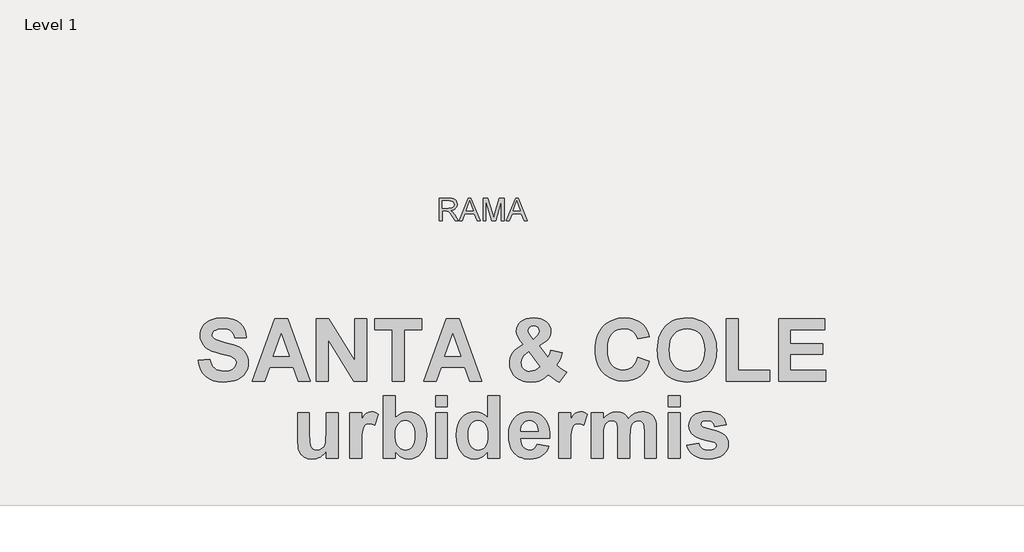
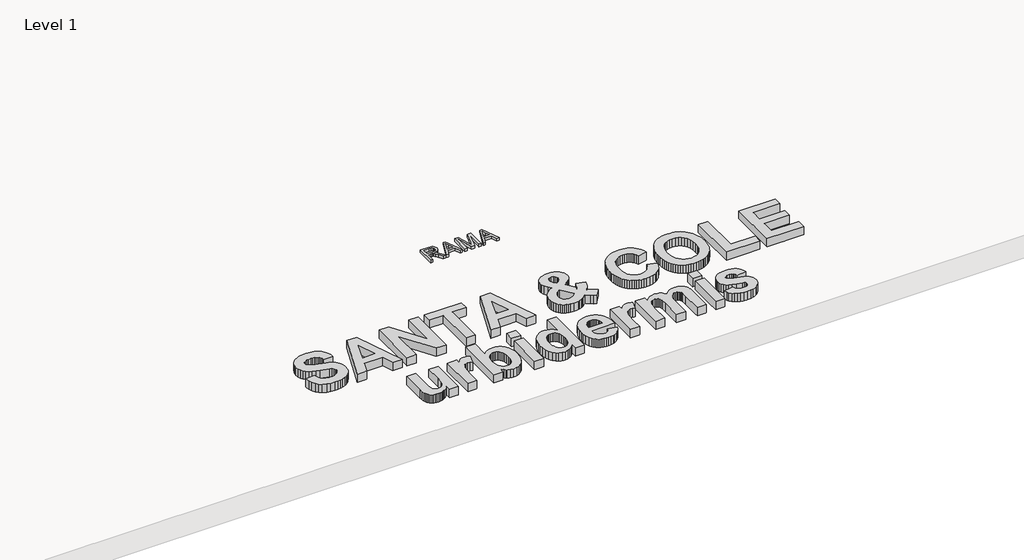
# One storey, part 2 of 2: 2 proxies.
"""IFC4 building model written with IfcOpenShell, lengths in millimetres."""

import ifcopenshell
import ifcopenshell.guid

model = None  # the IFC model being written
_history = None  # IfcOwnerHistory: only IFC2X3 demands one
_inside = {}  # id of a spatial element -> (the spatial element, [elements in it])
_under = {}  # id of a project, library or spatial element -> (it, [spatial elements below it])
_declared = {}  # id of a project -> (the project, [libraries it declares])
_typed = {}  # id of a type object -> (the type object, [elements of that type])
_made_of = {}  # id of a material, layer set ... -> (it, [elements and type objects made of it])


def new_model(schema):
    """Start an empty IFC model of exactly this schema.

    Asked for "IFC4X3", IfcOpenShell would pick the latest addendum, in which some entities
    have other attributes; the version numbers below select the first issue.
    IFC2X3 requires an IfcOwnerHistory on every rooted entity: one is made here for all.
    """
    global model, _history
    if schema == "IFC4X3":
        model = ifcopenshell.file(schema_version=(4, 3, 0, 0))
    else:
        model = ifcopenshell.file(schema=schema)
    _inside.clear()
    _under.clear()
    _declared.clear()
    _typed.clear()
    _made_of.clear()
    _history = None
    if model.schema == "IFC2X3":
        org = make("IfcOrganization", Name="unknown")
        user = make(
            "IfcPersonAndOrganization",
            ThePerson=make("IfcPerson", FamilyName="unknown"),
            TheOrganization=org,
        )
        app = make(
            "IfcApplication",
            ApplicationDeveloper=org,
            Version="unknown",
            ApplicationFullName="unknown",
            ApplicationIdentifier="unknown",
        )
        _history = make(
            "IfcOwnerHistory",
            OwningUser=user,
            OwningApplication=app,
            ChangeAction="ADDED",
            CreationDate=0,
        )
    return model


def make(cls, **values):
    """One entity of the class cls with the attributes given. An attribute that is None is left unset."""
    return model.create_entity(
        cls, **{name: value for name, value in values.items() if value is not None}
    )


def rooted(cls, **values):
    """An entity with a GlobalId (a new one), such as an element, a storey or a relation."""
    return make(cls, GlobalId=ifcopenshell.guid.new(), OwnerHistory=_history, **values)


def si_unit(unit_type, name, prefix=None):
    """IfcSIUnit, for example si_unit("LENGTHUNIT", "METRE", prefix="MILLI")."""
    return make("IfcSIUnit", UnitType=unit_type, Prefix=prefix, Name=name)


def assignment(units):
    """IfcUnitAssignment: the units of a project."""
    return None if units is None else make("IfcUnitAssignment", Units=units)


def point(xyz):
    """IfcCartesianPoint."""
    return None if xyz is None else make("IfcCartesianPoint", Coordinates=xyz)


def direction(xyz):
    """IfcDirection."""
    return None if xyz is None else make("IfcDirection", DirectionRatios=xyz)


def frame(location, z_axis=None, x_axis=None):
    """IfcAxis2Placement3D, a coordinate frame: its origin and axes. An axis left out is left unset."""
    return make(
        "IfcAxis2Placement3D",
        Location=point(location),
        Axis=direction(z_axis),
        RefDirection=direction(x_axis),
    )


def origin():
    """The frame at (0, 0, 0) with its axes left unset."""
    return frame((0.0, 0.0, 0.0))


def origin_with_axes():
    """The frame at (0, 0, 0) with the z axis (0, 0, 1) and the x axis (1, 0, 0) written out."""
    return frame((0.0, 0.0, 0.0), z_axis=(0.0, 0.0, 1.0), x_axis=(1.0, 0.0, 0.0))


def place(relative_to, where):
    """IfcLocalPlacement: puts the frame where relative to a parent placement (None: the world)."""
    return make(
        "IfcLocalPlacement", PlacementRelTo=relative_to, RelativePlacement=where
    )


def context(
    kind, dimensions, precision=None, world=None, true_north=None, identifier=None
):
    """IfcGeometricRepresentationContext, for example the 3D "Model" context."""
    return make(
        "IfcGeometricRepresentationContext",
        ContextIdentifier=identifier,
        ContextType=kind,
        CoordinateSpaceDimension=dimensions,
        Precision=precision,
        WorldCoordinateSystem=world,
        TrueNorth=true_north,
    )


def project(units=None, contexts=None):
    """IfcProject with its units and contexts."""
    return rooted(
        "IfcProject",
        Name="project",
        RepresentationContexts=contexts,
        UnitsInContext=assignment(units),
    )


def spatial(cls, under=None, at=None, **own):
    """A site, building, storey or space (cls), placed at a placement, below another one or the project."""
    s = rooted(cls, ObjectPlacement=at, **own)
    if under is not None:
        _under.setdefault(under.id(), (under, []))[1].append(s)
    return s


def polyline(points):
    """IfcPolyline through the points."""
    return make("IfcPolyline", Points=[point(p) for p in points])


def outline(outer, holes=None, kind="AREA"):
    """IfcArbitraryClosedProfileDef: a profile drawn as a closed curve; with holes, ...WithVoids."""
    if holes is None:
        return make("IfcArbitraryClosedProfileDef", ProfileType=kind, OuterCurve=outer)
    return make(
        "IfcArbitraryProfileDefWithVoids",
        ProfileType=kind,
        OuterCurve=outer,
        InnerCurves=holes,
    )


def extrude(swept, where, along, depth):
    """IfcExtrudedAreaSolid: the profile swept, set in the frame where, extruded along a direction by depth."""
    return make(
        "IfcExtrudedAreaSolid",
        SweptArea=swept,
        Position=where,
        ExtrudedDirection=direction(along),
        Depth=depth,
    )


def shape(context_of_items, identifier, shape_type, items):
    """IfcShapeRepresentation: the items that make up one representation, for example the "Body"."""
    return make(
        "IfcShapeRepresentation",
        ContextOfItems=context_of_items,
        RepresentationIdentifier=identifier,
        RepresentationType=shape_type,
        Items=items,
    )


def made_of(thing, what):
    """Note that an element or type object is made of a material, layer set ...; save() writes the relation."""
    if what is not None:
        _made_of.setdefault(what.id(), (what, []))[1].append(thing)
    return thing


def element(
    cls,
    number,
    at=None,
    inside=None,
    cuts=None,
    type_object=None,
    material=None,
    context=None,
    identifier="Body",
    shape_type=None,
    held_by="IfcProductDefinitionShape",
    body=None,
    shapes=None,
    **own,
):
    """One element of the class cls, such as IfcWall. Its Tag is "e" and its number.

    at: its placement. inside: the storey or other place that contains it. cuts: it is an
    opening in that element (IfcRelVoidsElement). A single representation is given by context,
    identifier, shape_type and body (its items); several are given by shapes. held_by: the class
    of the entity that holds the representations. save() writes the other relations.
    """
    e = rooted(cls, Tag="e%d" % number, ObjectPlacement=at, **own)
    if body is not None:
        shapes = [shape(context, identifier, shape_type, body)]
    if shapes is not None:
        e.Representation = make(held_by, Representations=shapes)
    if inside is not None:
        _inside.setdefault(inside.id(), (inside, []))[1].append(e)
    if cuts is not None:
        rooted(
            "IfcRelVoidsElement", RelatingBuildingElement=cuts, RelatedOpeningElement=e
        )
    if type_object is not None:
        _typed.setdefault(type_object.id(), (type_object, []))[1].append(e)
    return made_of(e, material)


def aggregate(whole, parts):
    """IfcRelAggregates: a whole, such as a stair, and the parts it consists of."""
    return rooted("IfcRelAggregates", RelatingObject=whole, RelatedObjects=parts)


def save(model, path):
    """Write the relations noted so far, then the file.

    IfcRelAggregates (storeys below a building ...), IfcRelContainedInSpatialStructure (elements
    in a storey), IfcRelDefinesByType, IfcRelAssociatesMaterial and IfcRelDeclares: one each for
    every whole, place, type object, material and project.
    """
    for whole, parts in _under.values():
        aggregate(whole, parts)
    for where, things in _inside.values():
        rooted(
            "IfcRelContainedInSpatialStructure",
            RelatedElements=things,
            RelatingStructure=where,
        )
    for kind, things in _typed.values():
        rooted("IfcRelDefinesByType", RelatedObjects=things, RelatingType=kind)
    for what, things in _made_of.values():
        rooted("IfcRelAssociatesMaterial", RelatedObjects=things, RelatingMaterial=what)
    for by, libraries in _declared.values():
        rooted("IfcRelDeclares", RelatingContext=by, RelatedDefinitions=libraries)
    model.write(path)


model = new_model("IFC4")

# Units and contexts
model_context = context("Model", 3, world=origin())
ifc_project = project(units=[si_unit("LENGTHUNIT", "METRE", prefix="MILLI")], contexts=[model_context])

# Site, building, storey
site = spatial("IfcSite", under=ifc_project)
building = spatial("IfcBuilding", under=site)
storey = spatial("IfcBuildingStorey", under=building, Name="Level 1", Elevation=0.0)

# Proxies
placement = place(None, origin())
element("IfcBuildingElementProxy", 1, Name="300mm Arial", ObjectType="300mm Arial", at=placement, inside=storey, context=model_context, shape_type="SweptSolid", body=[
    extrude(outline(polyline([(-26358.8017715, -8934.4769997), (-26358.8017715, -8633.1080693), (-26228.9394272, -8633.1080693), (-26194.0366229, -8635.1406173), (-26168.6435682, -8641.2382614), (-26150.0839215, -8652.4954504), (-26135.6813414, -8670.0066334), (-26126.4383063, -8691.7208682), (-26123.3572946, -8715.5872126), (-26128.4616572, -8745.2752896), (-26143.7747453, -8769.8865951), (-26155.3745244, -8779.915978), (-26169.7564112, -8787.931207), (-26206.8665075, -8797.9192031), (-26185.4557753, -8814.0324345), (-26154.9215697, -8852.8071968), (-26104.6688892, -8934.4769997), (-26148.4468466, -8934.4769997), (-26187.6630673, -8872.010637), (-26215.9899809, -8830.6607007), (-26235.8923969, -8811.1261667), (-26253.80825, -8803.9524678), (-26275.6604406, -8802.6280927), (-26321.1306552, -8802.6280927), (-26321.1306552, -8934.4769997), (-26358.8017715, -8934.4769997)]), holes=[polyline([(-26321.1306552, -8764.9569764), (-26236.8121019, -8764.9569764), (-26212.5962695, -8763.6234041), (-26193.8066966, -8759.6226874), (-26179.6616339, -8752.6881118), (-26169.3793322, -8742.5529628), (-26163.1161412, -8730.2932954), (-26161.0284109, -8716.9851642), (-26165.0107335, -8698.6094585), (-26176.9577013, -8683.8022082), (-26197.5131077, -8674.0349412), (-26227.3207464, -8670.7791856), (-26321.1306552, -8670.7791856), (-26321.1306552, -8764.9569764)])]), origin_with_axes(), (0.0, 0.0, 1.0), 50.0),
    extrude(outline(polyline([(-26092.5287834, -8934.4769997), (-25972.2313709, -8633.1080693), (-25940.152061, -8633.1080693), (-25819.8546485, -8934.4769997), (-25859.6594804, -8934.4769997), (-25894.1668116, -8840.299209), (-26018.2901967, -8840.299209), (-26052.7239515, -8934.4769997), (-26092.5287834, -8934.4769997)]), holes=[polyline([(-26004.4578337, -8802.6280927), (-25907.9255982, -8802.6280927), (-25935.0752894, -8728.5366588), (-25956.1917159, -8670.7791856), (-25974.9536977, -8722.0619357), (-26004.4578337, -8802.6280927)])]), origin_with_axes(), (0.0, 0.0, 1.0), 50.0),
    extrude(outline(polyline([(-25779.6083583, -8934.4769997), (-25779.6083583, -8633.1080693), (-25714.7875507, -8633.1080693), (-25653.1305283, -8845.5231333), (-25640.6961169, -8889.8897019), (-25627.2316359, -8841.8443133), (-25566.6046831, -8633.1080693), (-25501.7838755, -8633.1080693), (-25501.7838755, -8934.4769997), (-25539.4549918, -8934.4769997), (-25539.4549918, -8670.7791856), (-25615.1651064, -8934.4769997), (-25666.2271273, -8934.4769997), (-25741.937242, -8670.7791856), (-25741.937242, -8934.4769997), (-25779.6083583, -8934.4769997)])), origin_with_axes(), (0.0, 0.0, 1.0), 50.0),
    extrude(outline(polyline([(-25470.9553643, -8934.4769997), (-25350.6579519, -8633.1080693), (-25318.5786419, -8633.1080693), (-25198.2812295, -8934.4769997), (-25238.0860614, -8934.4769997), (-25272.5933925, -8840.299209), (-25396.7167777, -8840.299209), (-25431.1505324, -8934.4769997), (-25470.9553643, -8934.4769997)]), holes=[polyline([(-25382.8844147, -8802.6280927), (-25286.3521791, -8802.6280927), (-25313.5018704, -8728.5366588), (-25334.6182969, -8670.7791856), (-25353.3802786, -8722.0619357), (-25382.8844147, -8802.6280927)])]), origin_with_axes(), (0.0, 0.0, 1.0), 50.0),
])
element("IfcBuildingElementProxy", 2, Name="800mm Arial", ObjectType="800mm Arial", at=placement, inside=storey, context=model_context, shape_type="SweptSolid", body=[
    extrude(outline(polyline([(-29541.0157949, -10774.4993973), (-29384.9161067, -10761.4910899), (-29375.4647584, -10799.0678215), (-29362.1515688, -10831.3091145), (-29344.976538, -10858.214969), (-29323.939666, -10879.7853849), (-29298.9774356, -10896.3252444), (-29270.0263297, -10908.1394298), (-29237.0863483, -10915.227941), (-29200.1574914, -10917.5907781), (-29161.3485276, -10915.5010647), (-29127.6463407, -10909.2319244), (-29099.0509306, -10898.7833572), (-29075.5622976, -10884.1553631), (-29057.2439585, -10866.7326156), (-29044.1594306, -10847.8997878), (-29036.3087139, -10827.6568798), (-29033.6918083, -10806.0038916), (-29038.0363797, -10779.4537331), (-29051.0700939, -10757.1211117), (-29074.97794, -10738.2438219), (-29111.9449072, -10722.0596583), (-29247.3126055, -10687.3030871), (-29310.1437463, -10670.3440145), (-29362.8629607, -10651.3778008), (-29405.4702486, -10630.4044458), (-29437.9656101, -10607.4239498), (-29471.667797, -10571.8416559), (-29495.7407877, -10532.5753688), (-29510.1845821, -10489.6250884), (-29514.9991802, -10442.9908147), (-29512.7887842, -10412.2993395), (-29506.1575963, -10382.6241384), (-29495.1056164, -10353.9652112), (-29479.6328446, -10326.3225581), (-29459.9933493, -10300.801377), (-29436.4411991, -10278.5068659), (-29408.9763939, -10259.4390247), (-29377.5989338, -10243.5978536), (-29342.5501838, -10231.1484969), (-29304.0715091, -10222.2560993), (-29262.1629095, -10216.9206608), (-29216.8243852, -10215.1421813), (-29144.6498752, -10219.5756766), (-29081.9902307, -10232.8761628), (-29028.8454516, -10255.0436396), (-29005.8411366, -10269.4524996), (-28985.2155379, -10286.0781073), (-28950.960752, -10324.5059683), (-28925.9413562, -10368.8536255), (-28910.1573504, -10419.1210788), (-28903.6087348, -10475.3083282), (-29059.708423, -10475.3083282), (-29066.7651756, -10446.3000569), (-29076.9596743, -10421.6744673), (-29090.291919, -10401.4315593), (-29106.7619097, -10385.571333), (-29127.0556314, -10373.6110582), (-29151.859069, -10365.0680048), (-29181.1722225, -10359.9421728), (-29214.995092, -10358.2335621), (-29250.2598002, -10360.0501519), (-29281.4594123, -10365.4999213), (-29308.5939284, -10374.5828703), (-29331.6633485, -10387.2989988), (-29343.5791613, -10397.4363321), (-29352.0904561, -10409.1488901), (-29357.197233, -10422.4366728), (-29358.899492, -10437.2996802), (-29357.3496741, -10451.1083033), (-29352.7002205, -10463.8752456), (-29334.1024061, -10486.2840876), (-29312.7288933, -10499.2987466), (-29280.1128493, -10512.5293639), (-29181.1531674, -10539.6384732), (-29075.5368907, -10567.840077), (-29034.6001032, -10582.4363125), (-29001.5775495, -10597.362837), (-28974.0873375, -10613.8455312), (-28949.7475749, -10633.1102754), (-28928.5582618, -10655.1570697), (-28910.5193981, -10679.9859142), (-28896.1137139, -10707.7428981), (-28885.8239396, -10738.574111), (-28879.650075, -10772.4795527), (-28877.5921201, -10809.4592233), (-28880.024826, -10843.8600986), (-28887.3229437, -10877.1430725), (-28899.4864733, -10909.3081449), (-28916.5154147, -10940.355316), (-28937.9969066, -10968.8872089), (-28963.5180878, -10993.5064468), (-28993.0789581, -11014.2130298), (-29026.6795176, -11031.0069578), (-29064.4912625, -11043.9898583), (-29106.6856892, -11053.2633587), (-29153.2627975, -11058.8274589), (-29204.2225874, -11060.682159), (-29277.1656546, -11056.1152776), (-29341.1146968, -11042.4146336), (-29396.069714, -11019.5802269), (-29442.0307062, -10987.6120575), (-29479.315259, -10946.8912282), (-29508.240958, -10897.7988417), (-29528.8078033, -10840.3348981), (-29541.0157949, -10774.4993973)])), origin_with_axes(), (0.0, 0.0, 1.0), 150.0),
    extrude(outline(polyline([(-28058.0687571, -11047.6738516), (-28222.0953825, -11047.6738516), (-28286.3239001, -10865.5575487), (-28595.880964, -10865.5575487), (-28659.2964624, -11047.6738516), (-28825.5588907, -11047.6738516), (-28526.3678216, -10228.1504886), (-28360.1053933, -10228.1504886), (-28058.0687571, -11047.6738516)]), holes=[polyline([(-28336.3245815, -10722.4661679), (-28441.8138239, -10423.2750988), (-28545.8802827, -10722.4661679), (-28336.3245815, -10722.4661679)])]), origin_with_axes(), (0.0, 0.0, 1.0), 150.0),
    extrude(outline(polyline([(-27980.018913, -11047.6738516), (-27980.018913, -10228.1504886), (-27816.3987971, -10228.1504886), (-27472.6949263, -10779.7840221), (-27472.6949263, -10228.1504886), (-27316.5952381, -10228.1504886), (-27316.5952381, -11047.6738516), (-27485.2967241, -11047.6738516), (-27823.9192248, -10504.1705102), (-27823.9192248, -11047.6738516), (-27980.018913, -11047.6738516)])), origin_with_axes(), (0.0, 0.0, 1.0), 150.0),
    extrude(outline(polyline([(-26978.3792471, -11047.6738516), (-26978.3792471, -10371.2418694), (-27212.5287793, -10371.2418694), (-27212.5287793, -10228.1504886), (-26588.1300266, -10228.1504886), (-26588.1300266, -10371.2418694), (-26822.2795589, -10371.2418694), (-26822.2795589, -11047.6738516), (-26978.3792471, -11047.6738516)])), origin_with_axes(), (0.0, 0.0, 1.0), 150.0),
    extrude(outline(polyline([(-25794.6232783, -11047.6738516), (-25958.6499037, -11047.6738516), (-26022.8784213, -10865.5575487), (-26332.4354852, -10865.5575487), (-26395.8509836, -11047.6738516), (-26562.1134119, -11047.6738516), (-26262.9223428, -10228.1504886), (-26096.6599145, -10228.1504886), (-25794.6232783, -11047.6738516)]), holes=[polyline([(-26072.8791027, -10722.4661679), (-26178.3683451, -10423.2750988), (-26282.4348039, -10722.4661679), (-26072.8791027, -10722.4661679)])]), origin_with_axes(), (0.0, 0.0, 1.0), 150.0),
    extrude(outline(polyline([(-24675.9088462, -10934.2576719), (-24774.6906801, -11060.682159), (-24811.4035788, -11041.5635041), (-24847.354272, -11019.1673656), (-24916.9690418, -10964.5426375), (-24966.817282, -11007.4294008), (-24992.8466002, -11023.9946671), (-25019.612717, -11037.3078567), (-25048.030279, -11047.5341139), (-25079.0139329, -11054.8385834), (-25148.6795164, -11060.682159), (-25218.4467273, -11055.2196862), (-25249.8622977, -11048.3915951), (-25278.9658447, -11038.8322677), (-25305.7573684, -11026.5417039), (-25330.2368686, -11011.5199037), (-25352.4043455, -10993.766867), (-25372.259799, -10973.282594), (-25397.6920561, -10938.1703269), (-25415.8579541, -10900.5173747), (-25426.7574929, -10860.3237376), (-25430.3906725, -10817.5894154), (-25427.551457, -10778.5581416), (-25419.0338104, -10741.5467124), (-25404.8377328, -10706.5551279), (-25384.9632242, -10673.5833879), (-25359.4356913, -10642.6696028), (-25328.2805412, -10613.8518829), (-25291.4977736, -10587.1302281), (-25249.0873888, -10562.5046384), (-25288.4425999, -10515.2987106), (-25316.6696106, -10470.430213), (-25333.6667934, -10427.8991456), (-25339.332521, -10387.7055084), (-25335.6104175, -10352.9997509), (-25324.4441068, -10321.0379333), (-25305.8335889, -10291.8200554), (-25279.7788639, -10265.3461174), (-25246.8388825, -10243.3818954), (-25207.5725954, -10227.6931653), (-25161.9800026, -10218.2799273), (-25110.061104, -10215.1421813), (-25059.8127058, -10218.4006098), (-25015.369773, -10228.1758955), (-24976.7323054, -10244.4680382), (-24943.9003031, -10267.2770381), (-24917.7121921, -10294.7863052), (-24899.0063986, -10325.1792499), (-24887.7829225, -10358.455872), (-24884.0417638, -10394.6161717), (-24885.9663327, -10418.2890045), (-24891.7400394, -10441.3393694), (-24901.362884, -10463.7672665), (-24914.8348664, -10485.5726958), (-24934.1631277, -10507.7719312), (-24961.3548092, -10531.3812468), (-25039.3284328, -10582.8301187), (-24923.8797051, -10734.8647108), (-24902.5379508, -10694.0613093), (-24884.4482734, -10642.3837758), (-24736.8852869, -10674.9045441), (-24757.566463, -10739.2855028), (-24775.3004445, -10783.6458634), (-24792.1705931, -10815.2011714), (-24810.2602705, -10841.1669724), (-24739.6292267, -10895.2327499), (-24675.9088462, -10934.2576719)]), holes=[polyline([(-25173.8831119, -10663.3190204), (-25217.9385903, -10692.8671873), (-25235.2025451, -10709.6801705), (-25249.2906436, -10727.8524201), (-25268.0408991, -10765.9881024), (-25274.2909843, -10804.9876176), (-25272.3918222, -10828.7366709), (-25266.694336, -10850.1864043), (-25257.1985257, -10869.3368177), (-25243.9043913, -10886.1879112), (-25227.4216972, -10899.9266655), (-25208.3602078, -10909.7400614), (-25186.719923, -10915.6280989), (-25162.500843, -10917.5907781), (-25129.573565, -10914.0084122), (-25097.8658159, -10903.2613146), (-25065.3450475, -10884.2823974), (-25029.9787119, -10856.004573), (-25173.8831119, -10663.3190204)]), polyline([(-25118.1912961, -10493.8045153), (-25081.1989221, -10461.8935113), (-25063.2362789, -10444.0324955), (-25050.4058195, -10426.2222935), (-25042.7075439, -10408.4629051), (-25040.141452, -10390.7543305), (-25045.0957878, -10363.2641185), (-25059.9587952, -10340.1438847), (-25083.2060632, -10324.4424512), (-25113.3131808, -10319.20864), (-25142.5056518, -10323.8326868), (-25164.6350184, -10337.7048271), (-25178.5833792, -10357.6237977), (-25183.2328328, -10380.3883356), (-25181.2765054, -10395.4673012), (-25175.4075229, -10412.045271), (-25151.9315933, -10449.6982231), (-25118.1912961, -10493.8045153)])]), origin_with_axes(), (0.0, 0.0, 1.0), 150.0),
    extrude(outline(polyline([(-23739.310717, -10735.4744752), (-23583.2110289, -10787.5077046), (-23604.7687413, -10849.2272957), (-23632.4495047, -10902.4737022), (-23666.253319, -10947.2469241), (-23706.1801843, -10983.5469615), (-23752.0649559, -11011.6024759), (-23803.7424894, -11031.6421291), (-23861.2127847, -11043.665921), (-23924.475842, -11047.6738516), (-23964.4694002, -11045.9620651), (-24002.6400169, -11040.8267055), (-24038.9876921, -11032.2677728), (-24073.5124258, -11020.285267), (-24106.214218, -11004.8791882), (-24137.0930686, -10986.0495362), (-24166.1489778, -10963.7963112), (-24193.3819455, -10938.1195132), (-24218.0583488, -10909.4732895), (-24239.444565, -10878.3117876), (-24257.5405942, -10844.6350075), (-24272.3464362, -10808.4429493), (-24283.8620911, -10769.7356128), (-24292.0875588, -10728.5129982), (-24297.0228395, -10684.7751055), (-24298.6679331, -10638.5219345), (-24297.0085482, -10589.6709131), (-24292.0303934, -10543.6273487), (-24283.7334689, -10500.3912412), (-24272.1177745, -10459.9625907), (-24257.1833103, -10422.3413971), (-24238.9300763, -10387.5276605), (-24217.3580725, -10355.5213808), (-24192.4672989, -10326.3225581), (-24164.8706957, -10300.2646573), (-24135.1812032, -10277.6811432), (-24103.3988214, -10258.572016), (-24069.5235503, -10242.9372755), (-24033.5553899, -10230.7769218), (-23995.4943403, -10222.0909548), (-23955.3404013, -10216.8793746), (-23913.093573, -10215.1421813), (-23841.0397456, -10220.871426), (-23807.6805512, -10228.0329819), (-23776.0998363, -10238.0591602), (-23746.2976009, -10250.9499609), (-23718.273845, -10266.7053839), (-23692.0285687, -10285.3254293), (-23667.5617718, -10306.8100971), (-23641.1767578, -10336.8028839), (-23618.323296, -10372.7154668), (-23599.0013863, -10414.5478458), (-23583.2110289, -10462.3000209), (-23739.310717, -10488.3166356), (-23749.1495198, -10459.7275773), (-23763.2185632, -10434.3270787), (-23781.5178471, -10412.1151399), (-23804.0473716, -10393.0917607), (-23830.0195243, -10377.8412988), (-23858.6466929, -10366.9481117), (-23889.9288773, -10360.4121995), (-23923.8660776, -10358.2335621), (-23970.2526345, -10362.190679), (-24012.0532549, -10374.0620298), (-24049.2679389, -10393.8476145), (-24081.8966864, -10421.547433), (-24108.4404932, -10458.1015389), (-24127.4003553, -10504.4499855), (-24138.7762725, -10560.592773), (-24142.5682449, -10626.5299012), (-24138.8906033, -10696.3225189), (-24127.8576786, -10755.2918185), (-24109.4694707, -10803.4377998), (-24083.7259796, -10840.7604628), (-24052.0880993, -10868.6825913), (-24016.0167236, -10888.6269688), (-23975.5118525, -10900.5935953), (-23930.573486, -10904.5824708), (-23897.1190159, -10902.035434), (-23866.0654932, -10894.3943238), (-23837.4129177, -10881.6591401), (-23811.1612897, -10863.8298829), (-23787.8822631, -10840.5254495), (-23768.1474921, -10811.3647371), (-23751.9569768, -10776.3477456), (-23739.310717, -10735.4744752)])), origin_with_axes(), (0.0, 0.0, 1.0), 150.0),
    extrude(outline(polyline([(-23479.1445701, -10642.9935402), (-23476.8452501, -10583.0079666), (-23469.9472903, -10528.0529494), (-23458.4506905, -10478.1284886), (-23442.3554508, -10433.2345842), (-23409.910903, -10374.0112161), (-23367.4560562, -10321.1395607), (-23317.7348502, -10277.8716946), (-23291.1783399, -10261.0587114), (-23263.4912248, -10247.4596948), (-23224.4408959, -10233.3207826), (-23182.494186, -10223.2215596), (-23137.6510953, -10217.1620259), (-23089.9116236, -10215.1421813), (-23046.5611853, -10216.893666), (-23005.4338464, -10222.1481202), (-22966.5296069, -10230.9055439), (-22929.8484667, -10243.1659371), (-22895.390426, -10258.9292998), (-22863.1554847, -10278.195632), (-22833.1436428, -10300.9649336), (-22805.3549003, -10327.2372047), (-22780.3450321, -10356.6281667), (-22758.6698129, -10388.753541), (-22740.3292428, -10423.6133275), (-22725.3233219, -10461.2075263), (-22713.65205, -10501.5361374), (-22705.3154273, -10544.5991607), (-22700.3134536, -10590.3965963), (-22698.6461291, -10638.9284441), (-22700.3007502, -10687.1220633), (-22705.2646136, -10732.6162046), (-22713.5377192, -10775.410868), (-22725.1200671, -10815.5060536), (-22740.0116572, -10852.9017614), (-22758.2124896, -10887.5979914), (-22779.7225642, -10919.5947434), (-22804.5418811, -10948.8920177), (-22832.1337205, -10975.092832), (-22861.9613628, -10997.8002045), (-22894.0248078, -11017.014135), (-22928.3240557, -11032.7346236), (-22964.8591064, -11044.9616703), (-23003.62996, -11053.6952751), (-23044.6366164, -11058.935438), (-23087.8790756, -11060.682159), (-23131.5979132, -11058.9433776), (-23173.0174309, -11053.7270337), (-23212.1376286, -11045.0331271), (-23248.9585064, -11032.8616579), (-23283.4800642, -11017.212626), (-23315.7023021, -10998.0860316), (-23345.6252201, -10975.4818744), (-23373.248818, -10949.4001547), (-23398.0681349, -10920.2696129), (-23419.5782095, -10888.5189897), (-23437.7790419, -10854.148285), (-23452.6706321, -10817.1574989), (-23464.2529799, -10777.5466314), (-23472.5260856, -10735.3156824), (-23477.4899489, -10690.464652), (-23479.1445701, -10642.9935402)]), holes=[polyline([(-23323.0448819, -10637.3024057), (-23318.8972136, -10702.1279842), (-23306.4542086, -10758.594709), (-23285.7158671, -10806.70258), (-23256.6821889, -10846.4515973), (-23221.2586879, -10877.5749889), (-23181.3508778, -10899.8059829), (-23136.9587586, -10913.1445793), (-23088.0823304, -10917.5907781), (-23039.2567158, -10913.1763379), (-22995.0170377, -10899.9330172), (-22955.3632962, -10877.860816), (-22920.295491, -10846.9597343), (-22891.6175088, -10807.2297722), (-22871.1332357, -10758.6709295), (-22858.8426719, -10701.2832064), (-22854.7458173, -10635.0666029), (-22858.7346928, -10569.7709976), (-22870.7013193, -10513.3169763), (-22890.6456967, -10465.7045388), (-22918.5678252, -10426.9336853), (-22953.0957348, -10396.8773814), (-22992.8574555, -10375.4085929), (-23037.8529873, -10362.5273198), (-23088.0823304, -10358.2335621), (-23138.3624871, -10362.5781335), (-23183.5104601, -10375.6118477), (-23223.5262493, -10397.3347047), (-23258.4098547, -10427.7467045), (-23286.6876791, -10466.9113642), (-23306.8861251, -10514.892201), (-23319.0051927, -10571.6892148), (-23323.0448819, -10637.3024057)])]), origin_with_axes(), (0.0, 0.0, 1.0), 150.0),
    extrude(outline(polyline([(-22568.5630556, -11047.6738516), (-22568.5630556, -10228.1504886), (-22412.4633674, -10228.1504886), (-22412.4633674, -10904.5824708), (-21996.1975322, -10904.5824708), (-21996.1975322, -11047.6738516), (-22568.5630556, -11047.6738516)])), origin_with_axes(), (0.0, 0.0, 1.0), 150.0),
    extrude(outline(polyline([(-21879.1227661, -11047.6738516), (-21879.1227661, -10228.1504886), (-21267.7323206, -10228.1504886), (-21267.7323206, -10371.2418694), (-21723.0230779, -10371.2418694), (-21723.0230779, -10553.3581723), (-21293.7489353, -10553.3581723), (-21293.7489353, -10696.4495532), (-21723.0230779, -10696.4495532), (-21723.0230779, -10904.5824708), (-21254.7240133, -10904.5824708), (-21254.7240133, -11047.6738516), (-21879.1227661, -11047.6738516)])), origin_with_axes(), (0.0, 0.0, 1.0), 150.0),
    extrude(outline(polyline([(-27849.9358395, -12064.4789741), (-27849.9358395, -11976.6728995), (-27866.698009, -11998.8975418), (-27885.8865326, -12018.6196093), (-27907.5014105, -12035.8391021), (-27931.5426426, -12050.5560201), (-27957.1590994, -12062.338447), (-27983.4996515, -12070.7544661), (-28010.5642987, -12075.8040776), (-28038.3530412, -12077.4872815), (-28066.1862457, -12075.8358362), (-28092.5712598, -12070.8815004), (-28117.5080833, -12062.624274), (-28140.9967164, -12051.0641572), (-28162.1860296, -12036.5123836), (-28180.2248933, -12019.2801874), (-28195.1133075, -11999.3675685), (-28206.8512724, -11976.7745269), (-28215.74367, -11950.5483057), (-28222.0953825, -11919.736148), (-28227.1767526, -11844.3540232), (-28227.1767526, -11466.096836), (-28071.0770644, -11466.096836), (-28071.0770644, -11742.726622), (-28068.9682958, -11845.1416355), (-28062.6419901, -11898.3181732), (-28050.7007705, -11923.9282783), (-28031.7472602, -11943.6439941), (-28006.2641893, -11956.220385), (-27974.7342881, -11960.4125153), (-27937.3608113, -11954.8230082), (-27904.1032443, -11938.0544871), (-27877.8325611, -11912.9779258), (-27861.4197358, -11882.4642986), (-27856.3955312, -11859.8458501), (-27852.8068136, -11825.2226649), (-27849.9358395, -11719.9620841), (-27849.9358395, -11466.096836), (-27693.8361513, -11466.096836), (-27693.8361513, -12064.4789741), (-27849.9358395, -12064.4789741)])), origin_with_axes(), (0.0, 0.0, 1.0), 150.0),
    extrude(outline(polyline([(-27381.6367749, -12064.4789741), (-27537.7364631, -12064.4789741), (-27537.7364631, -11466.096836), (-27381.6367749, -11466.096836), (-27381.6367749, -11549.431305), (-27348.6586832, -11500.4214908), (-27319.2375506, -11471.6863431), (-27289.6639768, -11457.7379823), (-27256.2285619, -11453.0885287), (-27231.6474342, -11455.1464836), (-27207.498223, -11461.3203482), (-27183.7809282, -11471.6101225), (-27160.49555, -11486.0158067), (-27206.0246257, -11634.5950672), (-27243.6267641, -11615.5399294), (-27278.3833353, -11609.1882169), (-27308.3888255, -11613.6344157), (-27333.3637593, -11626.9730121), (-27353.4351711, -11651.8971322), (-27368.7300949, -11691.0999022), (-27374.3767674, -11720.6226623), (-27378.4101049, -11762.8488474), (-27381.6367749, -11885.4114933), (-27381.6367749, -12064.4789741)])), origin_with_axes(), (0.0, 0.0, 1.0), 150.0),
    extrude(outline(polyline([(-27095.4540132, -12064.4789741), (-27095.4540132, -11244.9556111), (-26939.354325, -11244.9556111), (-26939.354325, -11535.000214), (-26901.9300345, -11499.1638517), (-26861.2028535, -11473.56645), (-26817.172782, -11458.208009), (-26769.8398199, -11453.0885287), (-26718.6958302, -11458.0301611), (-26672.1758873, -11472.8550582), (-26630.2799912, -11497.5632201), (-26593.0081418, -11532.1546468), (-26562.4182941, -11575.994167), (-26540.5684028, -11628.4466094), (-26527.4584681, -11689.5119741), (-26523.0884898, -11759.190261), (-26527.4330612, -11831.231385), (-26540.4667754, -11894.5071457), (-26562.1896324, -11949.017543), (-26592.6016322, -11994.7625769), (-26629.2129035, -12030.9546351), (-26669.5335749, -12056.8061053), (-26713.5636465, -12072.3169874), (-26761.3031182, -12077.4872815), (-26809.7539817, -12071.2371963), (-26857.5442671, -12052.4869408), (-26880.4548943, -12038.4750628), (-26901.7267797, -12021.4397697), (-26921.3599233, -12001.3810614), (-26939.354325, -11978.2989379), (-26939.354325, -12064.4789741), (-27095.4540132, -12064.4789741)]), holes=[polyline([(-26939.354325, -11753.9056361), (-26937.5504386, -11798.6470995), (-26932.1387795, -11837.1384777), (-26923.1193477, -11869.3797707), (-26910.4921431, -11895.3709786), (-26888.6930655, -11923.8266509), (-26863.5402837, -11944.1521311), (-26835.0337977, -11956.3474193), (-26803.1736074, -11960.4125153), (-26778.4082801, -11957.5288378), (-26755.5357631, -11948.8778053), (-26734.5560565, -11934.4594177), (-26715.4691602, -11914.2736752), (-26699.5962305, -11887.9013646), (-26688.2584236, -11854.9232729), (-26681.4557394, -11815.3394001), (-26679.188178, -11769.1497463), (-26681.4684428, -11719.9938427), (-26688.3092373, -11678.2186291), (-26699.7105613, -11643.8241055), (-26715.672415, -11616.810272), (-26735.2039312, -11596.4022195), (-26757.3142427, -11581.8250391), (-26782.0033494, -11573.0787309), (-26809.2712515, -11570.1632948), (-26836.04372, -11573.0088621), (-26860.4660549, -11581.5455638), (-26882.538256, -11595.7733999), (-26902.2603236, -11615.6923706), (-26918.4889492, -11641.404103), (-26930.0808247, -11673.0102248), (-26937.0359499, -11710.5107358), (-26939.354325, -11753.9056361)])]), origin_with_axes(), (0.0, 0.0, 1.0), 150.0),
    extrude(outline(polyline([(-26406.0137237, -11388.0469919), (-26406.0137237, -11244.9556111), (-26249.9140355, -11244.9556111), (-26249.9140355, -11388.0469919), (-26406.0137237, -11388.0469919)])), origin_with_axes(), (0.0, 0.0, 1.0), 150.0),
    extrude(outline(polyline([(-26406.0137237, -12064.4789741), (-26406.0137237, -11466.096836), (-26249.9140355, -11466.096836), (-26249.9140355, -12064.4789741), (-26406.0137237, -12064.4789741)])), origin_with_axes(), (0.0, 0.0, 1.0), 150.0),
    extrude(outline(polyline([(-25560.473746, -12064.4789741), (-25716.5734342, -12064.4789741), (-25716.5734342, -11978.2989379), (-25734.8346078, -12001.7939227), (-25754.6583027, -12022.074941), (-25776.044519, -12039.1419927), (-25798.9932565, -12052.9950778), (-25846.6311008, -12071.3642305), (-25894.624641, -12077.4872815), (-25941.9512514, -12072.304284), (-25985.759013, -12056.7552916), (-26026.0479259, -12030.8403043), (-26062.8179899, -11994.5593221), (-26093.4522997, -11948.9921361), (-26115.3339495, -11895.2185375), (-26128.4629394, -11833.2385262), (-26132.8392693, -11763.0521022), (-26128.4692911, -11691.6842598), (-26115.3593563, -11629.4120697), (-26093.5094651, -11576.235532), (-26062.9196173, -11532.1546468), (-26025.647768, -11497.5632201), (-25983.7518718, -11472.8550582), (-25937.2319289, -11458.0301611), (-25886.0879393, -11453.0885287), (-25838.7549772, -11458.208009), (-25794.7249057, -11473.56645), (-25753.9977246, -11499.1638517), (-25716.5734342, -11535.000214), (-25716.5734342, -11244.9556111), (-25560.473746, -11244.9556111), (-25560.473746, -12064.4789741)]), holes=[polyline([(-25976.7395812, -11753.9056361), (-25975.1135427, -11799.7904078), (-25970.2354275, -11838.8661435), (-25962.1052354, -11871.1328434), (-25950.7229665, -11896.5905074), (-25930.0544937, -11924.5126358), (-25905.651214, -11944.4570133), (-25877.5131273, -11956.4236398), (-25845.6402336, -11960.4125153), (-25819.7252463, -11957.4208587), (-25795.8428071, -11948.4458888), (-25773.9929158, -11933.4876057), (-25754.1755726, -11912.5460094), (-25737.724637, -11885.65921), (-25725.9739688, -11852.865318), (-25718.9235678, -11814.1643333), (-25716.5734342, -11769.5562559), (-25718.853699, -11720.2225044), (-25725.6944934, -11678.3202565), (-25737.0958175, -11643.8495124), (-25753.0576712, -11616.810272), (-25772.5891873, -11596.4022195), (-25794.6994988, -11581.8250391), (-25819.3886056, -11573.0787309), (-25846.6565077, -11570.1632948), (-25873.1812594, -11573.0469723), (-25897.4702082, -11581.6980049), (-25919.5233543, -11596.1163924), (-25939.3406975, -11616.302135), (-25955.7027091, -11642.2044188), (-25967.3898602, -11673.7724303), (-25974.4021509, -11711.0061694), (-25976.7395812, -11753.9056361)])]), origin_with_axes(), (0.0, 0.0, 1.0), 150.0),
    extrude(outline(polyline([(-25066.1580667, -11882.3626712), (-24910.0583785, -11908.3792859), (-24926.9285271, -11947.270822), (-24948.0670265, -11981.2207257), (-24973.4738768, -12010.228997), (-25003.149078, -12034.295636), (-25036.9528923, -12053.1919809), (-25074.7455821, -12066.6893701), (-25116.5271474, -12074.7878036), (-25162.2975882, -12077.4872815), (-25198.873925, -12075.8961775), (-25232.9921491, -12071.1228655), (-25264.6522605, -12063.1673455), (-25293.854259, -12052.0296175), (-25320.5981448, -12037.7096815), (-25344.8839178, -12020.2075375), (-25366.7115781, -11999.5231855), (-25386.0811256, -11975.6566255), (-25411.1576868, -11932.2236149), (-25429.0695163, -11883.4297589), (-25439.8166139, -11829.2750575), (-25443.3989798, -11769.7595107), (-25438.6478988, -11699.5857902), (-25424.3946558, -11637.4406344), (-25400.6392508, -11583.3240433), (-25367.3816838, -11537.2360169), (-25326.8577575, -11500.4214908), (-25281.303275, -11474.1254007), (-25230.718236, -11458.3477467), (-25175.1026407, -11453.0885287), (-25113.3004774, -11458.4874844), (-25058.3835705, -11474.6843514), (-25033.5070882, -11486.8320017), (-25010.35192, -11501.6791299), (-24969.205526, -11539.4718197), (-24951.5826994, -11562.5063053), (-24936.4179857, -11588.4181168), (-24923.7113847, -11617.207254), (-24913.4628964, -11648.873717), (-24900.3402583, -11720.8386205), (-24897.0500711, -11804.3128271), (-25287.2992916, -11804.3128271), (-25284.3902073, -11839.2472463), (-25277.2889926, -11870.0657557), (-25265.9956477, -11896.7683553), (-25250.5101724, -11919.3550452), (-25231.8488409, -11937.3176884), (-25211.0279271, -11950.1481478), (-25188.047431, -11957.8464234), (-25162.9073526, -11960.4125153), (-25130.1325157, -11955.7884686), (-25102.9471859, -11941.9163283), (-25081.554618, -11917.7798205), (-25066.1580667, -11882.3626712)]), holes=[polyline([(-25053.1497593, -11713.2546757), (-25055.9318094, -11680.2956391), (-25062.6519213, -11651.5414363), (-25073.310095, -11626.9920672), (-25087.9063305, -11606.6475318), (-25105.3608367, -11590.6856782), (-25124.5938224, -11579.2843541), (-25145.6052876, -11572.4435596), (-25168.3952323, -11570.1632948), (-25192.6079606, -11572.5642422), (-25214.6356998, -11579.7670842), (-25234.4784499, -11591.771821), (-25252.1362108, -11608.5784525), (-25266.5164881, -11629.6026211), (-25276.7300419, -11654.0567145), (-25282.7768723, -11681.9407327), (-25284.6569792, -11713.2546757), (-25053.1497593, -11713.2546757)])]), origin_with_axes(), (0.0, 0.0, 1.0), 150.0),
    extrude(outline(polyline([(-24623.8756168, -12064.4789741), (-24779.975305, -12064.4789741), (-24779.975305, -11466.096836), (-24623.8756168, -11466.096836), (-24623.8756168, -11549.431305), (-24590.8975251, -11500.4214908), (-24561.4763925, -11471.6863431), (-24531.9028188, -11457.7379823), (-24498.4674038, -11453.0885287), (-24473.8862761, -11455.1464836), (-24449.7370649, -11461.3203482), (-24426.0197702, -11471.6101225), (-24402.7343919, -11486.0158067), (-24448.2634676, -11634.5950672), (-24485.865606, -11615.5399294), (-24520.6221772, -11609.1882169), (-24550.6276674, -11613.6344157), (-24575.6026013, -11626.9730121), (-24595.674013, -11651.8971322), (-24610.9689369, -11691.0999022), (-24616.6156093, -11720.6226623), (-24620.6489468, -11762.8488474), (-24623.8756168, -11885.4114933), (-24623.8756168, -12064.4789741)])), origin_with_axes(), (0.0, 0.0, 1.0), 150.0),
    extrude(outline(polyline([(-24350.7011625, -11466.096836), (-24194.6014743, -11466.096836), (-24194.6014743, -11546.1792282), (-24156.1736132, -11505.4520471), (-24114.2650137, -11476.3612036), (-24068.8756756, -11458.9066974), (-24020.0055991, -11453.0885287), (-23969.7254423, -11458.80507), (-23947.2721384, -11465.9507466), (-23926.6100174, -11475.9546939), (-23907.7263759, -11488.8550222), (-23890.6085105, -11504.6898416), (-23861.6701081, -11545.1629541), (-23821.7051325, -11504.6898416), (-23778.6405213, -11475.9546939), (-23732.527088, -11458.80507), (-23683.4156464, -11453.0885287), (-23652.5336199, -11454.7590291), (-23624.1160578, -11459.7705303), (-23598.1629602, -11468.1230323), (-23574.6743272, -11479.8165352), (-23553.8153031, -11494.7494114), (-23535.7510325, -11512.8200337), (-23520.4815155, -11534.028402), (-23508.006752, -11558.3745163), (-23501.0706819, -11580.4403658), (-23496.1163461, -11608.4260114), (-23492.1528774, -11682.1566909), (-23492.1528774, -12064.4789741), (-23648.2525656, -12064.4789741), (-23648.2525656, -11719.9620841), (-23652.2160342, -11646.2314046), (-23657.1703701, -11621.294581), (-23664.1064402, -11604.3101016), (-23676.1238804, -11589.3708736), (-23691.0377015, -11578.6999965), (-23708.8479035, -11572.2974703), (-23729.5544865, -11570.1632948), (-23760.7286918, -11575.2700717), (-23790.0227902, -11590.5904025), (-23814.4133665, -11615.7685911), (-23830.8770055, -11650.4489418), (-23840.2521333, -11701.313456), (-23843.3771758, -11775.0441356), (-23843.3771758, -12064.4789741), (-23999.476864, -12064.4789741), (-23999.476864, -11734.1899203), (-24001.5094121, -11661.8058038), (-24007.6070561, -11620.6721132), (-24017.9476442, -11598.4157124), (-24032.7090242, -11582.6634652), (-24052.7550291, -11573.2883374), (-24078.9494917, -11570.1632948), (-24112.334093, -11575.1176306), (-24142.1617353, -11589.9806381), (-24166.2474294, -11614.2187732), (-24182.4061861, -11647.2984923), (-24191.5526522, -11697.1213257), (-24194.6014743, -11771.5888039), (-24194.6014743, -12064.4789741), (-24350.7011625, -12064.4789741), (-24350.7011625, -11466.096836)])), origin_with_axes(), (0.0, 0.0, 1.0), 150.0),
    extrude(outline(polyline([(-23336.0531892, -11388.0469919), (-23336.0531892, -11244.9556111), (-23179.953501, -11244.9556111), (-23179.953501, -11388.0469919), (-23336.0531892, -11388.0469919)])), origin_with_axes(), (0.0, 0.0, 1.0), 150.0),
    extrude(outline(polyline([(-23336.0531892, -12064.4789741), (-23336.0531892, -11466.096836), (-23179.953501, -11466.096836), (-23179.953501, -12064.4789741), (-23336.0531892, -12064.4789741)])), origin_with_axes(), (0.0, 0.0, 1.0), 150.0),
    extrude(outline(polyline([(-23088.8953496, -11895.3709786), (-22932.7956614, -11869.3543639), (-22926.6408519, -11890.3658291), (-22917.932654, -11908.6841681), (-22906.6710676, -11924.309381), (-22892.8560927, -11937.2414678), (-22876.2717712, -11947.3788011), (-22856.7021448, -11954.6197534), (-22834.1472134, -11958.9643248), (-22808.6069772, -11960.4125153), (-22756.4213067, -11954.8738219), (-22735.8544613, -11947.9504552), (-22718.9716093, -11938.2577419), (-22703.7274991, -11920.1680644), (-22698.6461291, -11896.7937622), (-22701.3392552, -11880.6350054), (-22709.4186336, -11867.5250706), (-22727.8640069, -11856.8033798), (-22760.435589, -11846.9963356), (-22844.2654915, -11826.5946348), (-22911.1998386, -11807.056767), (-22961.2386303, -11788.382732), (-22994.3818665, -11770.5725299), (-23024.3492464, -11744.0350748), (-23045.7545178, -11712.7973524), (-23058.5976806, -11676.8593626), (-23062.8787349, -11636.2211056), (-23059.207445, -11599.0381802), (-23048.1935754, -11564.9294837), (-23029.8371261, -11533.895016), (-23004.138097, -11505.9347773), (-22970.7153854, -11482.8145435), (-22929.1878886, -11466.3000908), (-22879.5556066, -11456.3914192), (-22821.8185393, -11453.0885287), (-22766.8508187, -11455.756248), (-22719.4289326, -11463.7594058), (-22679.5528811, -11477.0980022), (-22647.2226641, -11495.7720372), (-22620.8884638, -11519.6798833), (-22599.0004622, -11548.7199132), (-22581.5586595, -11582.8921268), (-22568.5630556, -11622.1965242), (-22724.6627438, -11648.2131389), (-22736.1466401, -11614.8285376), (-22754.7444545, -11590.2855203), (-22766.9905564, -11581.4820466), (-22781.5740884, -11575.1938512), (-22817.7534433, -11570.1632948), (-22862.2154313, -11574.4316457), (-22878.9204353, -11579.7670842), (-22891.9414461, -11587.2366982), (-22903.0696465, -11601.2612796), (-22906.7790467, -11618.9444474), (-22903.0696465, -11634.2393713), (-22891.9414461, -11647.1968649), (-22875.8398547, -11655.7208632), (-22847.4540512, -11665.845493), (-22753.8298079, -11690.8966474), (-22699.1987281, -11705.8485788), (-22653.4981561, -11722.4519555), (-22616.728092, -11740.7067774), (-22588.8885358, -11760.6130446), (-22568.6138693, -11783.720575), (-22554.1319646, -11810.9694219), (-22545.4428218, -11842.3595854), (-22542.5464409, -11877.8910656), (-22546.7449229, -11917.4050695), (-22559.3403689, -11954.0353959), (-22580.332779, -11987.7820448), (-22609.7221531, -12018.6450162), (-22647.3433466, -12044.3885072), (-22693.0312152, -12062.7767151), (-22746.7857587, -12073.8096399), (-22808.6069772, -12077.4872815), (-22865.2451982, -12074.425756), (-22915.6460374, -12065.2411796), (-22959.809495, -12049.9335523), (-22997.7355707, -12028.5028741), (-23029.5385956, -12001.8129779), (-23055.3329003, -11970.7276965), (-23075.118485, -11935.2470301), (-23088.8953496, -11895.3709786)])), origin_with_axes(), (0.0, 0.0, 1.0), 150.0),
])

save(model, "model.ifc")
